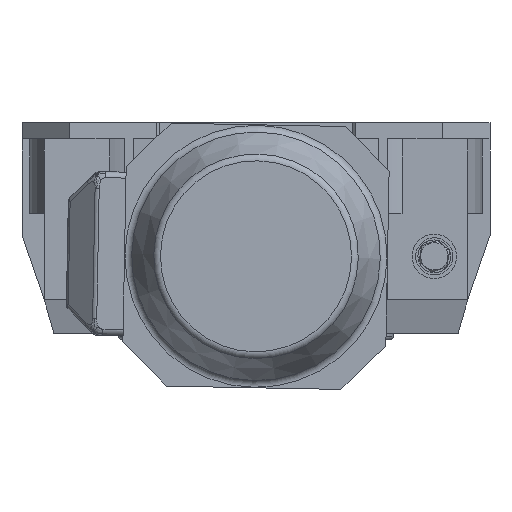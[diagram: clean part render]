
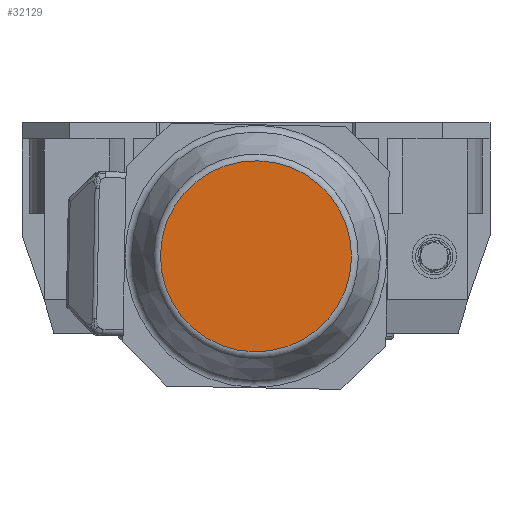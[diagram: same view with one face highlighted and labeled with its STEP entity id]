
A CAD part, front view. The second image highlights one B-rep face of the part: STEP entity #32129.
In plain terms, the highlighted planar face has unit normal (0, -1, 0) as drawn and (1, 0, 0) by its records, which use the part's own axes.
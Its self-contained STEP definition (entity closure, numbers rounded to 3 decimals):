
#32106=CARTESIAN_POINT('',(308.0,0.0,64.298));
#32107=VERTEX_POINT('',#32106);
#32108=CARTESIAN_POINT('',(308.0,0.0,0.0));
#32109=DIRECTION('',(-1.0,0.0,0.0));
#32110=DIRECTION('',(0.0,0.0,-1.0));
#32111=AXIS2_PLACEMENT_3D('',#32108,#32109,#32110);
#32112=CIRCLE('',#32111,64.298);
#32113=EDGE_CURVE('',#32107,#32107,#32112,.T.);
#32121=CARTESIAN_POINT('',(308.0,0.0,33.75));
#32122=DIRECTION('',(1.0,0.0,0.0));
#32123=DIRECTION('',(0.0,0.0,-1.0));
#32124=AXIS2_PLACEMENT_3D('',#32121,#32122,#32123);
#32125=PLANE('',#32124);
#32126=ORIENTED_EDGE('',*,*,#32113,.F.);
#32127=EDGE_LOOP('',(#32126));
#32128=FACE_OUTER_BOUND('',#32127,.T.);
#32129=ADVANCED_FACE('',(#32128),#32125,.T.);
